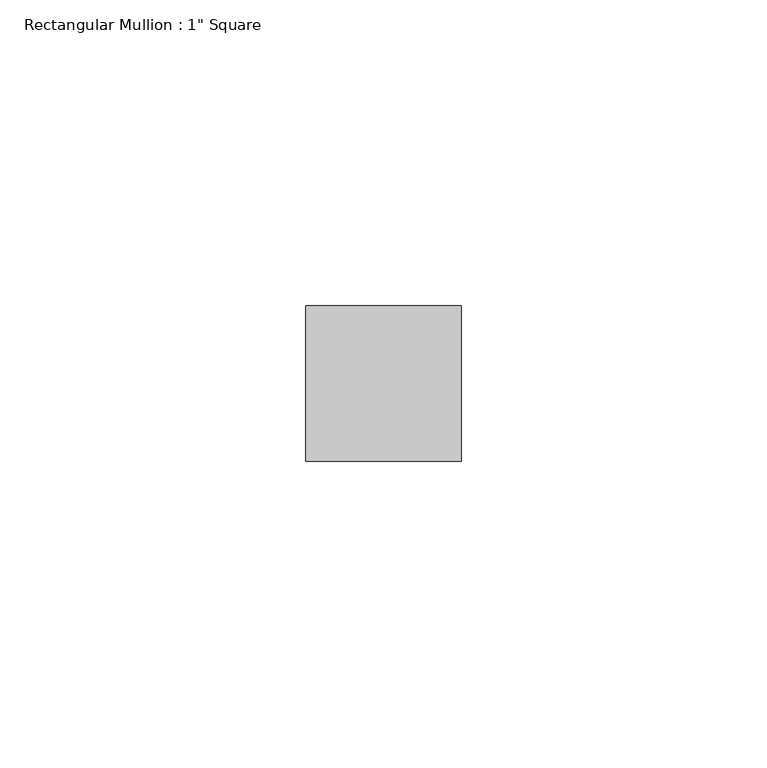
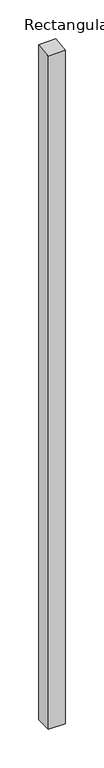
"""IFC4 building model written with IfcOpenShell, lengths in millimetres: member geometry."""

from ifc_helpers import new_model, si_unit, origin, place, context, project, spatial, faceted_brep, source, transform, mapped, element, save


def member_3071623d(model_context):
    return source(origin(), model_context, "Body", "Brep", [
        faceted_brep([(0.0, 12.7, -1066.8), (0.0, -12.7, -1066.8), (-25.4, -12.7, -1066.8), (-25.4, 12.7, -1066.8), (-25.4, 12.7, 0.4307601), (0.0, 12.7, 1.4093356), (-25.4, -12.7, -2.3879112), (0.0, -12.7, -1.4093356)], [[[0, 1, 2, 3]], [[4, 5, 0, 3]], [[6, 4, 3, 2]], [[7, 6, 2, 1]], [[5, 7, 1, 0]], [[5, 4, 6, 7]]]),
    ])


if __name__ == "__main__":
    model = new_model("IFC4")
    model_context = context("Model", 3, world=origin())
    ifc_project = project(units=[si_unit("LENGTHUNIT", "METRE", prefix="MILLI")], contexts=[model_context])
    site = spatial("IfcSite", under=ifc_project)
    building = spatial("IfcBuilding", under=site)
    placement = place(None, origin())
    member_shape = member_3071623d(model_context)
    element("IfcMember", 1, ObjectType="Rectangular Mullion : 1\" Square", at=placement, inside=building, context=model_context, shape_type="MappedRepresentation", body=[
        mapped(member_shape, transform((0.0, 0.0, 0.0), x_axis=(1.0, 0.0, 0.0), y_axis=(0.0, 1.0, 0.0), z_axis=(0.0, 0.0, 1.0))),
    ])
    save(model, "model.ifc")
